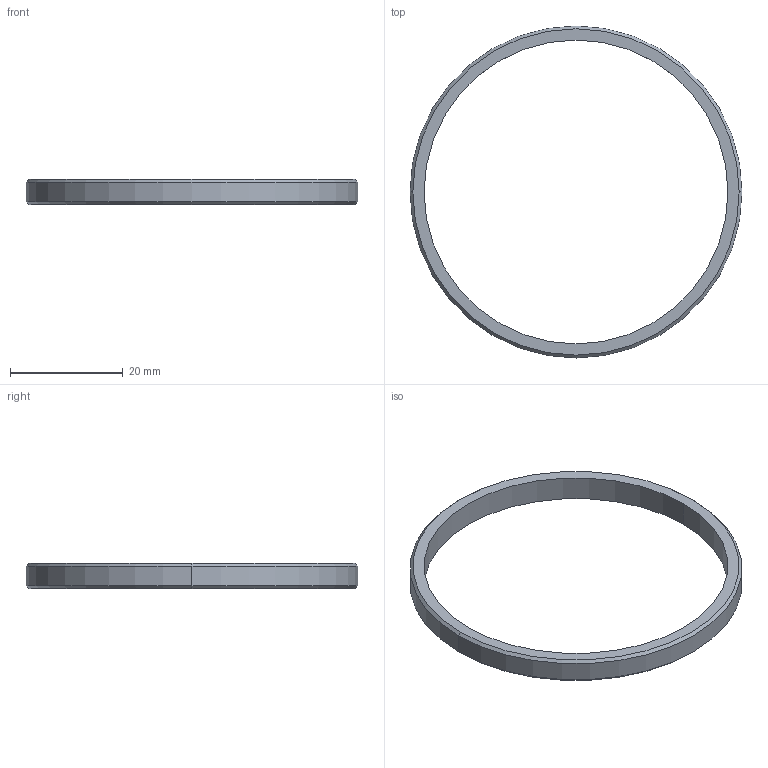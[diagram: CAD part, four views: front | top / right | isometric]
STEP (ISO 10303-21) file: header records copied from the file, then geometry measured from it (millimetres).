
FILE_DESCRIPTION(/* description */ ('VariCAD 2008 3.04 AP-203'),/* implementation_level */ '2;1');
FILE_NAME(/* name */ '0353-30-03',/* time_stamp */ '2009-04-22T19:27:20-06:00',/* author */ (''),/* organization */ (''),/* preprocessor_version */ 'ST-DEVELOPER v12',/* originating_system */ 'VariCAD 2008 3.04; kernel version (20080715)',/* authorisation */ '');
FILE_SCHEMA (('CONFIG_CONTROL_DESIGN'));
Length unit declared in the file: millimetre
Products named in the file (1): Part
Bounding box: 59 x 59 x 4.5 mm (x, y, z)
Volume: 1950.8 mm3; surface area: 2375.8 mm2
Topology: 1 solids, 1 shells, 10 faces, 20 edges, 12 vertices
Faces by surface type: cylinder 4, cone 4, plane 2
Entity records: 314 total; most frequent: DIRECTION 56, CARTESIAN_POINT 44, ORIENTED_EDGE 40, AXIS2_PLACEMENT_3D 24, EDGE_CURVE 20, EDGE_LOOP 12, CIRCLE 12, VERTEX_POINT 12
